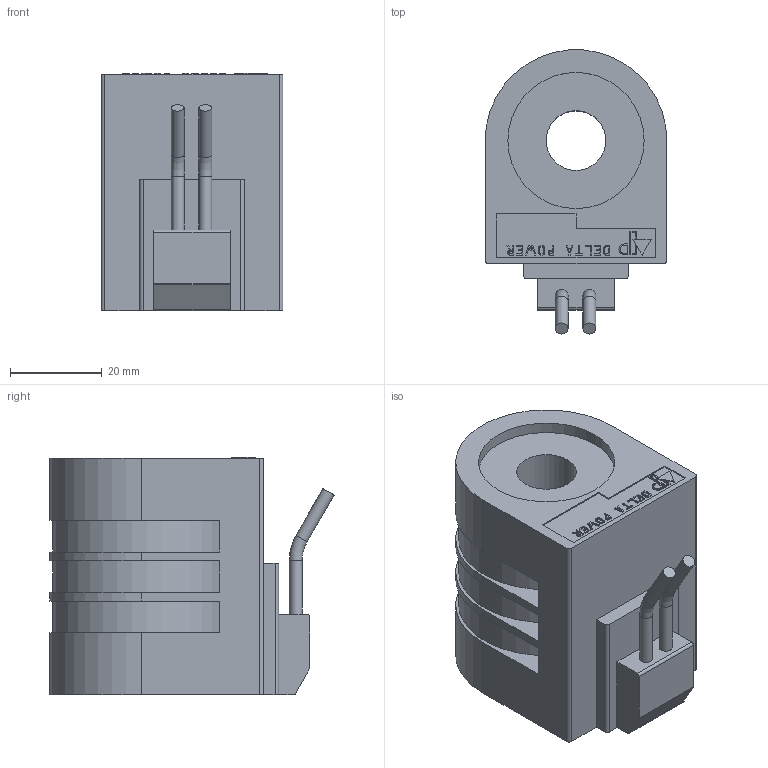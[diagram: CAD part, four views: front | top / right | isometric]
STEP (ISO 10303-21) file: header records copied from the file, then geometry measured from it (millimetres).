
FILE_DESCRIPTION((''),'2;1');
FILE_NAME('U:\Solid model CD\Solid model full\Coils\STEP\DDL.stp','2009-01-16T14:59:21',('Dan'),(''),'Autodesk Inventor 2009','Autodesk Inventor 2009','');
FILE_SCHEMA(('AUTOMOTIVE_DESIGN { 1 0 10303 214 1 1 1 1 }'));
Length unit declared in the file: inch
Products named in the file (1): DDL
Bounding box: 39.62 x 61.92 x 51.82 mm (x, y, z)
Volume: 77673.7 mm3; surface area: 16378.6 mm2
Topology: 13 solids, 13 shells, 220 faces, 564 edges, 375 vertices
Faces by surface type: plane 179, cylinder 39, torus 2
Full cylindrical faces by diameter (mm): 2.794 x4, 13.005 x1, 29.694 x2
Entity records: 6632 total; most frequent: CARTESIAN_POINT 1149, ORIENTED_EDGE 1108, DIRECTION 1074, EDGE_CURVE 554, VECTOR 476, LINE 476, VERTEX_POINT 374, AXIS2_PLACEMENT_3D 299
